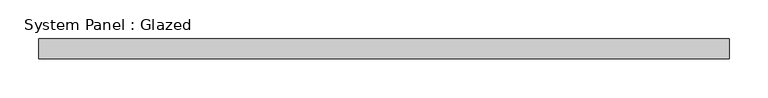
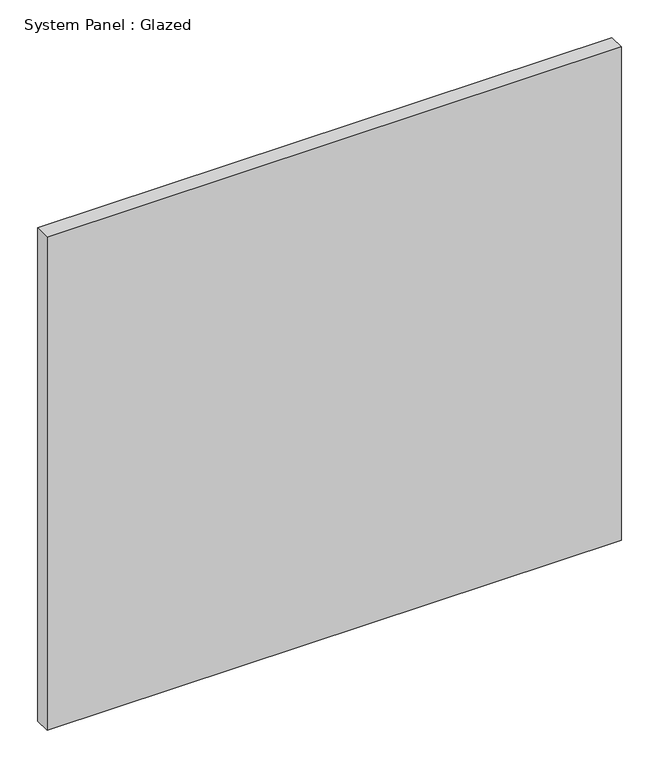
"""IFC4 building model written with IfcOpenShell, lengths in millimetres: plate geometry, System Panel : Glazed."""

from ifc_helpers import new_model, si_unit, origin, origin_with_axes, place, context, project, spatial, polyline, outline, extrude, source, transform, mapped, element, save


def system_panel_glazed_a68344bf(model_context):
    return source(origin(), model_context, "Body", "SweptSolid", [
        extrude(outline(polyline([(442.3919032, -44.45), (-442.3919032, -44.45), (-442.3919032, -19.05), (442.3919032, -19.05), (442.3919032, -44.45)])), origin_with_axes(), (0.0, 0.0, 1.0), 802.4190025),
    ])


if __name__ == "__main__":
    model = new_model("IFC4")
    model_context = context("Model", 3, world=origin())
    ifc_project = project(units=[si_unit("LENGTHUNIT", "METRE", prefix="MILLI")], contexts=[model_context])
    site = spatial("IfcSite", under=ifc_project)
    building = spatial("IfcBuilding", under=site)
    placement = place(None, origin())
    system_panel_glazed_shape = system_panel_glazed_a68344bf(model_context)
    element("IfcPlate", 1, ObjectType="System Panel : Glazed", at=placement, inside=building, context=model_context, shape_type="MappedRepresentation", body=[
        mapped(system_panel_glazed_shape, transform((0.0, 0.0, 0.0), x_axis=(1.0, 0.0, 0.0), y_axis=(0.0, 1.0, 0.0), z_axis=(0.0, 0.0, 1.0))),
    ])
    save(model, "model.ifc")
